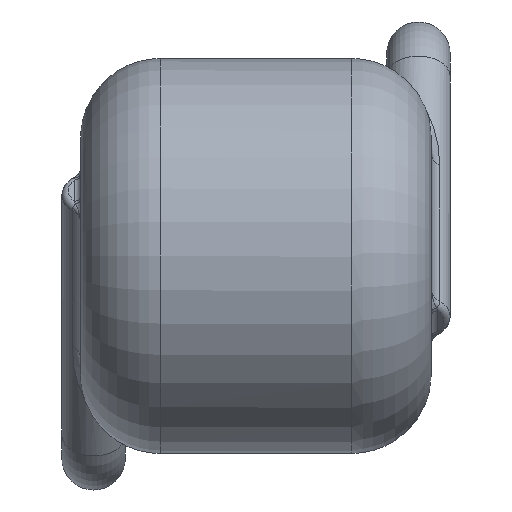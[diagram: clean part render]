
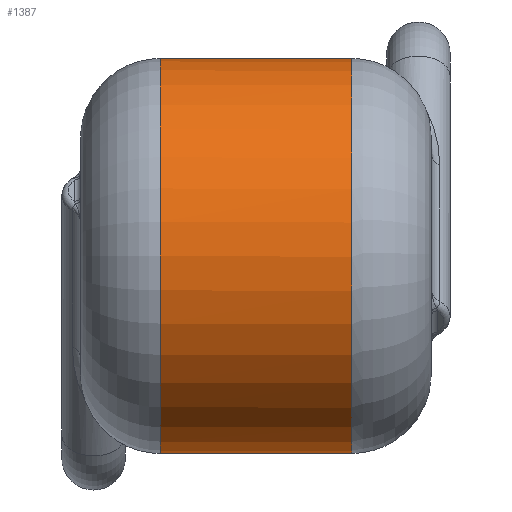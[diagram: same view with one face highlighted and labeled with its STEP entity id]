
A CAD part, left-side view. The second image highlights one B-rep face of the part: STEP entity #1387.
In plain terms, the highlighted cylindrical face has radius 6.2 mm (diameter 12.4 mm), a full revolution.
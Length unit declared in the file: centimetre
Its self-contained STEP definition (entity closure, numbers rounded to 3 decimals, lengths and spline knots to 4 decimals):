
#956=CARTESIAN_POINT('',(0.62,0.77,0.));
#957=VERTEX_POINT('',#956);
#958=CARTESIAN_POINT('',(0.0,0.77,0.0));
#959=DIRECTION('',(0.0,1.0,0.0));
#960=DIRECTION('',(-1.0,0.0,0.0));
#961=AXIS2_PLACEMENT_3D('',#958,#959,#960);
#962=CIRCLE('',#961,0.62);
#963=EDGE_CURVE('',#957,#957,#962,.T.);
#1278=CARTESIAN_POINT('',(0.62,0.169,0.));
#1279=VERTEX_POINT('',#1278);
#1280=CARTESIAN_POINT('',(0.0,0.169,0.0));
#1281=DIRECTION('',(0.0,-1.0,0.0));
#1282=DIRECTION('',(-1.0,0.0,0.0));
#1283=AXIS2_PLACEMENT_3D('',#1280,#1281,#1282);
#1284=CIRCLE('',#1283,0.62);
#1285=EDGE_CURVE('',#1279,#1279,#1284,.T.);
#1376=CARTESIAN_POINT('',(0.0,0.4695,0.0));
#1377=DIRECTION('',(0.0,1.0,0.0));
#1378=DIRECTION('',(-1.0,0.0,0.0));
#1379=AXIS2_PLACEMENT_3D('',#1376,#1377,#1378);
#1380=CYLINDRICAL_SURFACE('',#1379,0.62);
#1381=ORIENTED_EDGE('',*,*,#963,.F.);
#1382=EDGE_LOOP('',(#1381));
#1383=FACE_OUTER_BOUND('',#1382,.T.);
#1384=ORIENTED_EDGE('',*,*,#1285,.F.);
#1385=EDGE_LOOP('',(#1384));
#1386=FACE_BOUND('',#1385,.T.);
#1387=ADVANCED_FACE('',(#1383,#1386),#1380,.T.);
